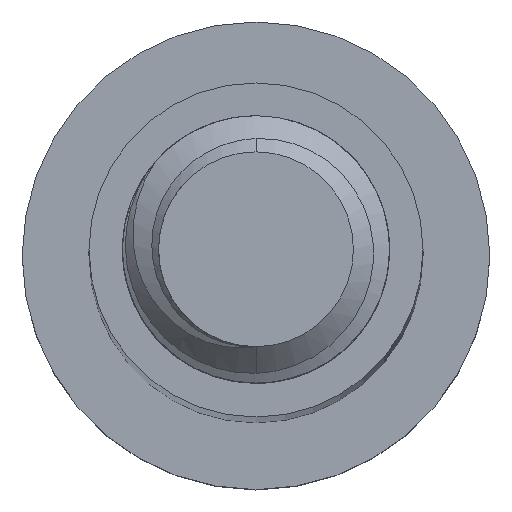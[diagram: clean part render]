
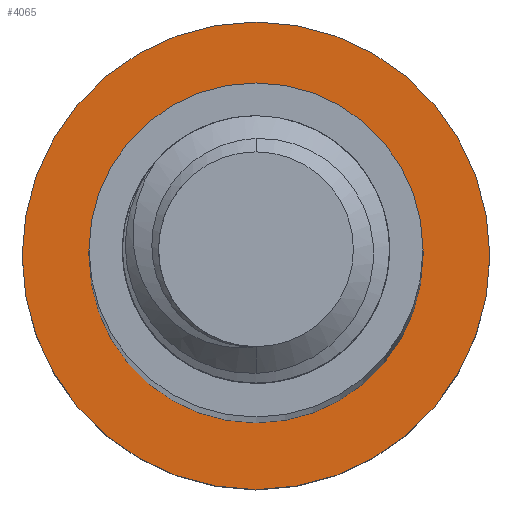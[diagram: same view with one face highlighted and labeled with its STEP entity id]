
A CAD part, top view. The second image highlights one B-rep face of the part: STEP entity #4065.
In plain terms, the highlighted planar face has unit normal (0, 0, 1).
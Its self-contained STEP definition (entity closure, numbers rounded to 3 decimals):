
#17 = AXIS2_PLACEMENT_3D ( 'NONE', #563, #1494, #3136 ) ;
#90 = AXIS2_PLACEMENT_3D ( 'NONE', #502, #203, #3183 ) ;
#154 = CARTESIAN_POINT ( 'NONE',  ( 5., 0., -100. ) ) ;
#181 = ORIENTED_EDGE ( 'NONE', *, *, #3309, .F. ) ;
#203 = DIRECTION ( 'NONE',  ( 0., 0., -1. ) ) ;
#424 = CIRCLE ( 'NONE', #90, 7. ) ;
#470 = FACE_OUTER_BOUND ( 'NONE', #3513, .T. ) ;
#502 = CARTESIAN_POINT ( 'NONE',  ( 0., 0., -100. ) ) ;
#563 = CARTESIAN_POINT ( 'NONE',  ( 0., 0., -100. ) ) ;
#689 = EDGE_CURVE ( 'NONE', #2605, #3801, #1861, .T. ) ;
#729 = DIRECTION ( 'NONE',  ( -1., 0., 0. ) ) ;
#879 = VERTEX_POINT ( 'NONE', #1944 ) ;
#1122 = DIRECTION ( 'NONE',  ( -1., 0., 0. ) ) ;
#1191 = ORIENTED_EDGE ( 'NONE', *, *, #2731, .F. ) ;
#1299 = ORIENTED_EDGE ( 'NONE', *, *, #3233, .T. ) ;
#1391 = CIRCLE ( 'NONE', #3166, 5. ) ;
#1448 = CARTESIAN_POINT ( 'NONE',  ( 0., 0., -100. ) ) ;
#1480 = CARTESIAN_POINT ( 'NONE',  ( 0., 0., -100. ) ) ;
#1494 = DIRECTION ( 'NONE',  ( 0., 0., -1. ) ) ;
#1798 = CIRCLE ( 'NONE', #3712, 7. ) ;
#1845 = CARTESIAN_POINT ( 'NONE',  ( -7., 0., -100. ) ) ;
#1861 = CIRCLE ( 'NONE', #17, 5. ) ;
#1944 = CARTESIAN_POINT ( 'NONE',  ( 7., 0., -100. ) ) ;
#2386 = FACE_BOUND ( 'NONE', #3977, .T. ) ;
#2401 = VERTEX_POINT ( 'NONE', #1845 ) ;
#2421 = DIRECTION ( 'NONE',  ( 0., 0., -1. ) ) ;
#2605 = VERTEX_POINT ( 'NONE', #154 ) ;
#2640 = CARTESIAN_POINT ( 'NONE',  ( -5., 0., -100. ) ) ;
#2658 = PLANE ( 'NONE',  #3168 ) ;
#2680 = CARTESIAN_POINT ( 'NONE',  ( 0., 0., -100. ) ) ;
#2731 = EDGE_CURVE ( 'NONE', #879, #2401, #424, .T. ) ;
#2747 = DIRECTION ( 'NONE',  ( 0., 0., -1. ) ) ;
#2881 = ORIENTED_EDGE ( 'NONE', *, *, #689, .T. ) ;
#3136 = DIRECTION ( 'NONE',  ( -1., 0., 0. ) ) ;
#3166 = AXIS2_PLACEMENT_3D ( 'NONE', #1480, #2421, #4084 ) ;
#3168 = AXIS2_PLACEMENT_3D ( 'NONE', #2680, #3687, #729 ) ;
#3183 = DIRECTION ( 'NONE',  ( -1., 0., 0. ) ) ;
#3233 = EDGE_CURVE ( 'NONE', #3801, #2605, #1391, .T. ) ;
#3309 = EDGE_CURVE ( 'NONE', #2401, #879, #1798, .T. ) ;
#3513 = EDGE_LOOP ( 'NONE', ( #1191, #181 ) ) ;
#3687 = DIRECTION ( 'NONE',  ( 0., 0., -1. ) ) ;
#3712 = AXIS2_PLACEMENT_3D ( 'NONE', #1448, #2747, #1122 ) ;
#3801 = VERTEX_POINT ( 'NONE', #2640 ) ;
#3977 = EDGE_LOOP ( 'NONE', ( #1299, #2881 ) ) ;
#4065 = ADVANCED_FACE ( 'NONE', ( #2386, #470 ), #2658, .F. ) ;
#4084 = DIRECTION ( 'NONE',  ( -1., 0., 0. ) ) ;
